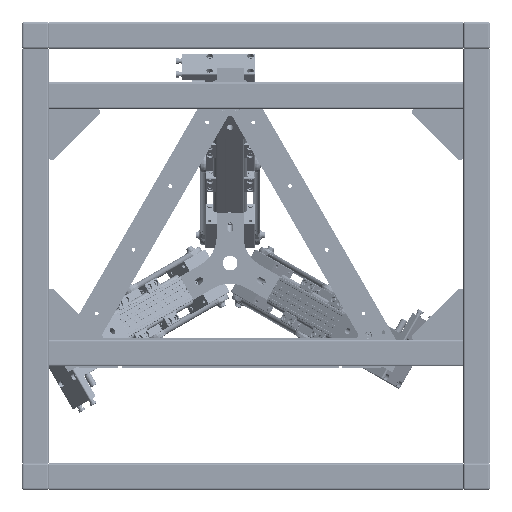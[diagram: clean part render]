
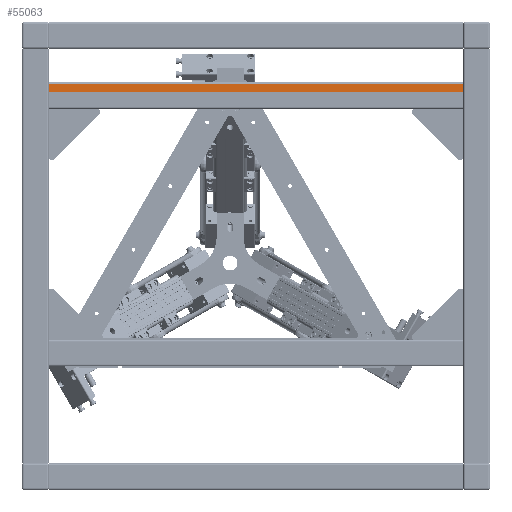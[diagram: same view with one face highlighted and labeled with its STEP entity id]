
A CAD part, front view. The second image highlights one B-rep face of the part: STEP entity #55063.
In plain terms, the highlighted planar face has unit normal (0, -1, 0) as drawn and (0, 1, 0) by its records, which use the part's own axes.
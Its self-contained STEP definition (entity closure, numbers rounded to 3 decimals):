
#4043=PLANE('',#61811);
#7888=FACE_OUTER_BOUND('',#11221,.T.);
#11221=EDGE_LOOP('',(#51513,#51514,#51515,#51516));
#15821=LINE('',#104067,#20584);
#15918=LINE('',#104268,#20681);
#15919=LINE('',#104271,#20682);
#15920=LINE('',#104272,#20683);
#20584=VECTOR('',#77186,10.);
#20681=VECTOR('',#77367,10.);
#20682=VECTOR('',#77370,10.);
#20683=VECTOR('',#77371,10.);
#28379=VERTEX_POINT('',#104064);
#28380=VERTEX_POINT('',#104066);
#28442=VERTEX_POINT('',#104266);
#28443=VERTEX_POINT('',#104270);
#36095=EDGE_CURVE('',#28379,#28380,#15821,.T.);
#36196=EDGE_CURVE('',#28442,#28379,#15918,.T.);
#36197=EDGE_CURVE('',#28443,#28442,#15919,.T.);
#36198=EDGE_CURVE('',#28443,#28380,#15920,.T.);
#51513=ORIENTED_EDGE('',*,*,#36196,.F.);
#51514=ORIENTED_EDGE('',*,*,#36197,.F.);
#51515=ORIENTED_EDGE('',*,*,#36198,.T.);
#51516=ORIENTED_EDGE('',*,*,#36095,.F.);
#55063=ADVANCED_FACE('',(#7888),#4043,.T.);
#61811=AXIS2_PLACEMENT_3D('',#104269,#77368,#77369);
#77186=DIRECTION('',(1.,0.,0.));
#77367=DIRECTION('',(0.,0.,-1.));
#77368=DIRECTION('center_axis',(0.,1.,0.));
#77369=DIRECTION('ref_axis',(-1.,0.,0.));
#77370=DIRECTION('',(-1.,0.,0.));
#77371=DIRECTION('',(0.,0.,-1.));
#104064=CARTESIAN_POINT('',(5.8,20.,-309.));
#104066=CARTESIAN_POINT('',(17.,20.,-309.));
#104067=CARTESIAN_POINT('',(5.8,20.,-309.));
#104266=CARTESIAN_POINT('',(5.8,20.,309.));
#104268=CARTESIAN_POINT('',(5.8,20.,0.));
#104269=CARTESIAN_POINT('Origin',(17.,20.,0.));
#104270=CARTESIAN_POINT('',(17.,20.,309.));
#104271=CARTESIAN_POINT('',(5.8,20.,309.));
#104272=CARTESIAN_POINT('',(17.,20.,0.));
